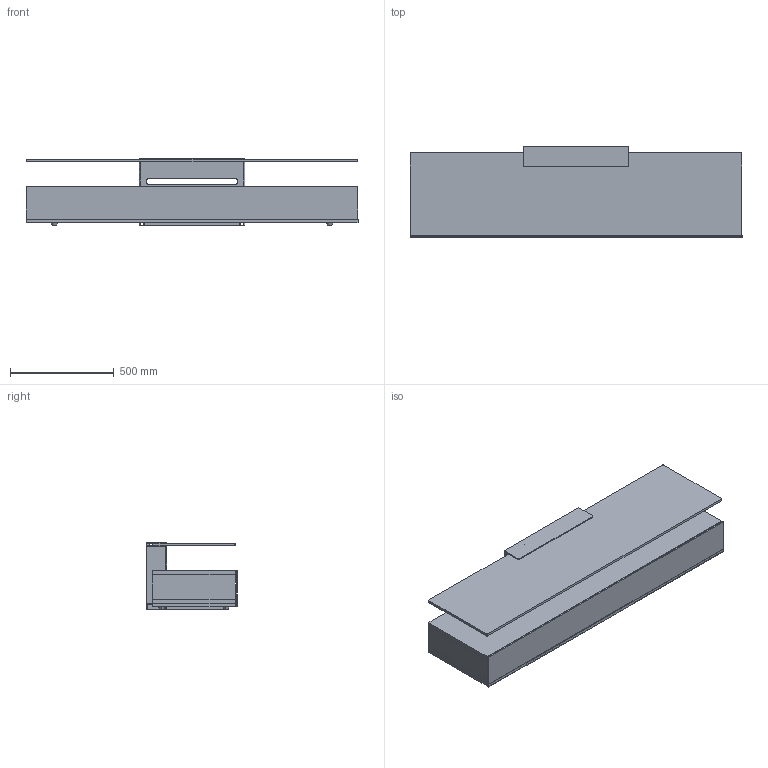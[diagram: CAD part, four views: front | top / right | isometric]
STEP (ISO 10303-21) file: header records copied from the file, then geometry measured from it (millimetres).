
FILE_DESCRIPTION(/* description */ (''),/* implementation_level */ '2;1');
FILE_NAME(/* name */ '9080 - Kristal 156x44',/* time_stamp */ '2010-11-04T15:43:17+01:00',/* author */ (''),/* organization */ (''),/* preprocessor_version */ 'ST-DEVELOPER v10',/* originating_system */ '',/* authorisation */ '');
FILE_SCHEMA (('CONFIG_CONTROL_DESIGN'));
Length unit declared in the file: centimetre
Products named in the file (1): 1
Bounding box: 1600 x 442.5 x 326 mm (x, y, z)
Volume: 39924484.3 mm3; surface area: 6256818.6 mm2
Topology: 24 solids, 24 shells, 251 faces, 601 edges, 398 vertices
Faces by surface type: plane 197, bspline 54
Entity records: 6709 total; most frequent: CARTESIAN_POINT 2513, ORIENTED_EDGE 1202, EDGE_CURVE 601, B_SPLINE_CURVE_WITH_KNOTS 485, VERTEX_POINT 398, EDGE_LOOP 265, ADVANCED_FACE 251, FACE_OUTER_BOUND 251
